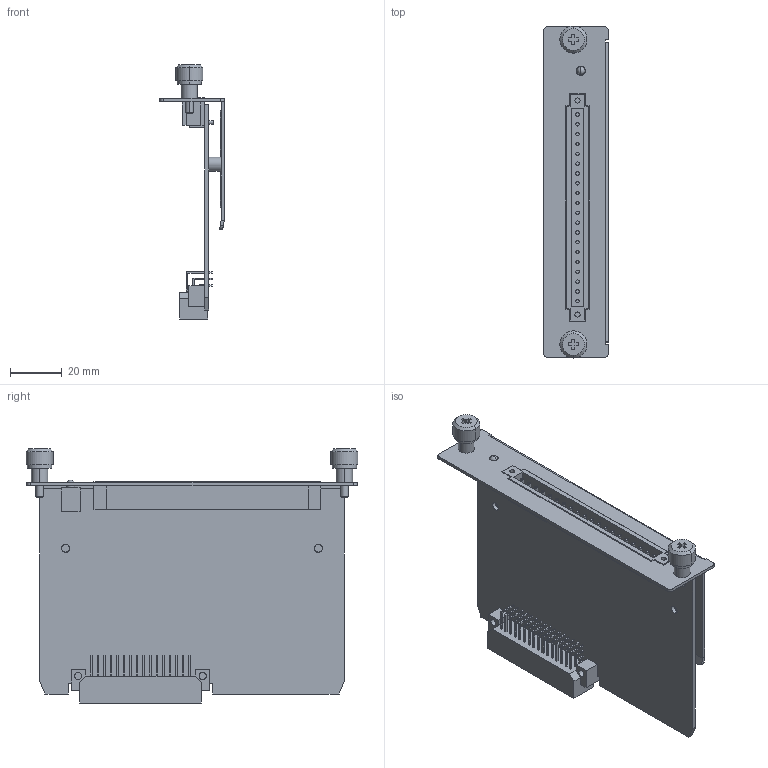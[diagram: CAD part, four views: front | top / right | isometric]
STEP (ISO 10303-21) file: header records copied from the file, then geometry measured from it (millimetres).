
FILE_DESCRIPTION((''),'2;1');
FILE_NAME('3D_RM-1050-T','2014-07-16T',('Sam_Liu'),(''),'PRO/ENGINEER BY PARAMETRIC TECHNOLOGY CORPORATION, 2013230','PRO/ENGINEER BY PARAMETRIC TECHNOLOGY CORPORATION, 2013230','');
FILE_SCHEMA(('CONFIG_CONTROL_DESIGN'));
Length unit declared in the file: millimetre
Products named in the file (1): 3D_RM-1050-T
Bounding box: 25 x 128.7 x 98.5 mm (x, y, z)
Volume: 34637.3 mm3; surface area: 46540.9 mm2
Topology: 1 solids, 1 shells, 1162 faces, 2920 edges, 1921 vertices
Faces by surface type: plane 968, cylinder 140, torus 44, cone 8, sphere 2
Entity records: 34798 total; most frequent: CARTESIAN_POINT 6401, ORIENTED_EDGE 5836, DIRECTION 5540, EDGE_CURVE 2918, VECTOR 2540, LINE 2540, VERTEX_POINT 1921, AXIS2_PLACEMENT_3D 1500
